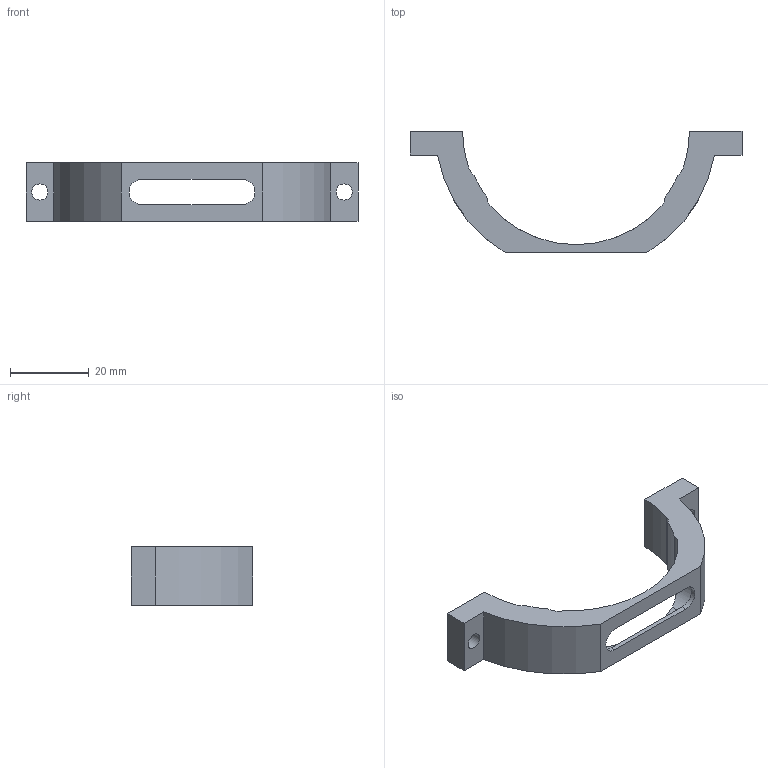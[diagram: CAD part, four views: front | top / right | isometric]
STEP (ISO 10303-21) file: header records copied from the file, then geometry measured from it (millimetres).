
FILE_DESCRIPTION(/* description */ ('STEP AP214'),/* implementation_level */ '2;1');
FILE_NAME(/* name */ '',/* time_stamp */ '2026-04-13T15:01:20+08:00',/* author */ ('lbx20'),/* organization */ (''),/* preprocessor_version */ 'ST-DEVELOPER v20.1',/* originating_system */ 'Autodesk Inventor 2026',/* authorisation */ '');
FILE_SCHEMA (('AUTOMOTIVE_DESIGN { 1 0 10303 214 3 1 1 }'));
Length unit declared in the file: millimetre
Products named in the file (1): 物镜架改下
Bounding box: 84.1 x 30.7 x 14.7 mm (x, y, z)
Volume: 8471.1 mm3; surface area: 4922.8 mm2
Topology: 1 solids, 1 shells, 31 faces, 84 edges, 56 vertices
Faces by surface type: cylinder 17, plane 14
Full cylindrical faces by diameter (mm): 4.1 x2
Entity records: 1078 total; most frequent: CARTESIAN_POINT 207, DIRECTION 180, ORIENTED_EDGE 168, EDGE_CURVE 84, AXIS2_PLACEMENT_3D 66, VERTEX_POINT 56, LINE 48, VECTOR 48
